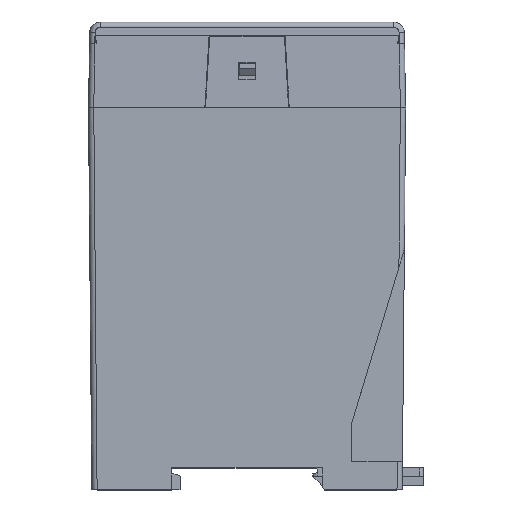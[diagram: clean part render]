
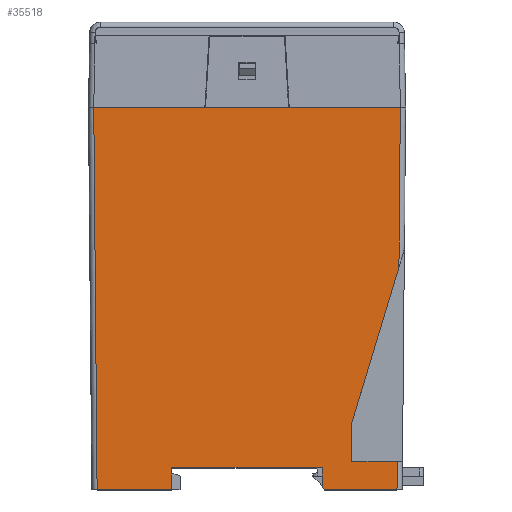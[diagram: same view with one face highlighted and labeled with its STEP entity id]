
A CAD part, top view. The second image highlights one B-rep face of the part: STEP entity #35518.
In plain terms, the highlighted planar face has unit normal (0, -0.009, 1).
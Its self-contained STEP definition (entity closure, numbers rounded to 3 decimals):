
#271 = EDGE_CURVE ( 'NONE', #39923, #16876, #25720, .T. ) ;
#479 = ORIENTED_EDGE ( 'NONE', *, *, #28667, .T. ) ;
#1952 = VERTEX_POINT ( 'NONE', #21425 ) ;
#2275 = VECTOR ( 'NONE', #29764, 1000. ) ;
#2846 = VECTOR ( 'NONE', #27057, 1000. ) ;
#3086 = LINE ( 'NONE', #39205, #13003 ) ;
#3342 = CARTESIAN_POINT ( 'NONE',  ( 49., 0., 25. ) ) ;
#3517 = CARTESIAN_POINT ( 'NONE',  ( -17.178, -55.738, 24.514 ) ) ;
#3635 = CARTESIAN_POINT ( 'NONE',  ( 24.861, -84., 24.267 ) ) ;
#4138 = CARTESIAN_POINT ( 'NONE',  ( 35.559, -90.7, 24.208 ) ) ;
#4170 = DIRECTION ( 'NONE',  ( 0.713, -0.701, -0.006 ) ) ;
#4301 = CARTESIAN_POINT ( 'NONE',  ( 36.35, 0.011, 25. ) ) ;
#4428 = LINE ( 'NONE', #37737, #30279 ) ;
#4620 = ORIENTED_EDGE ( 'NONE', *, *, #31604, .T. ) ;
#4980 = DIRECTION ( 'NONE',  ( 0., -1., -0.009 ) ) ;
#5839 = VERTEX_POINT ( 'NONE', #30574 ) ;
#6032 = VERTEX_POINT ( 'NONE', #23410 ) ;
#6281 = VECTOR ( 'NONE', #27338, 1000. ) ;
#7072 = VERTEX_POINT ( 'NONE', #29216 ) ;
#7608 = LINE ( 'NONE', #3517, #27795 ) ;
#7632 = CARTESIAN_POINT ( 'NONE',  ( -15., 0., 25. ) ) ;
#7657 = DIRECTION ( 'NONE',  ( 0.009, 1., 0.009 ) ) ;
#8182 = VERTEX_POINT ( 'NONE', #37005 ) ;
#8206 = PLANE ( 'NONE',  #32553 ) ;
#8334 = VECTOR ( 'NONE', #22715, 1000. ) ;
#9813 = VECTOR ( 'NONE', #35968, 1000. ) ;
#10176 = CARTESIAN_POINT ( 'NONE',  ( 17.85, -85.5, 24.254 ) ) ;
#10361 = ORIENTED_EDGE ( 'NONE', *, *, #16277, .F. ) ;
#11024 = VERTEX_POINT ( 'NONE', #3635 ) ;
#11501 = CARTESIAN_POINT ( 'NONE',  ( -9.85, 0., 25. ) ) ;
#11851 = CARTESIAN_POINT ( 'NONE',  ( 37.6, 0., 25. ) ) ;
#12038 = ORIENTED_EDGE ( 'NONE', *, *, #13414, .F. ) ;
#12741 = CARTESIAN_POINT ( 'NONE',  ( 37.6, -84., 24.267 ) ) ;
#12952 = LINE ( 'NONE', #23078, #2275 ) ;
#13003 = VECTOR ( 'NONE', #29558, 1000. ) ;
#13198 = DIRECTION ( 'NONE',  ( -1., 0., 0. ) ) ;
#13414 = EDGE_CURVE ( 'NONE', #6032, #7072, #32192, .T. ) ;
#13852 = CARTESIAN_POINT ( 'NONE',  ( -17.85, -85.5, 24.254 ) ) ;
#14097 = LINE ( 'NONE', #33695, #26430 ) ;
#14576 = CARTESIAN_POINT ( 'NONE',  ( 36.854, -90.7, 24.208 ) ) ;
#14656 = ORIENTED_EDGE ( 'NONE', *, *, #36639, .T. ) ;
#15005 = CARTESIAN_POINT ( 'NONE',  ( 18.4, -90.7, 24.208 ) ) ;
#15801 = EDGE_CURVE ( 'NONE', #27675, #6032, #18139, .T. ) ;
#16184 = CARTESIAN_POINT ( 'NONE',  ( 17.891, -90.2, 24.213 ) ) ;
#16277 = EDGE_CURVE ( 'NONE', #28578, #27675, #33827, .T. ) ;
#16470 = LINE ( 'NONE', #27262, #2846 ) ;
#16876 = VERTEX_POINT ( 'NONE', #15005 ) ;
#17453 = ORIENTED_EDGE ( 'NONE', *, *, #15801, .F. ) ;
#18135 = DIRECTION ( 'NONE',  ( -0.009, 1., 0.009 ) ) ;
#18139 = LINE ( 'NONE', #7632, #33317 ) ;
#18206 = VECTOR ( 'NONE', #27170, 1000. ) ;
#18294 = ORIENTED_EDGE ( 'NONE', *, *, #38089, .F. ) ;
#18511 = FACE_OUTER_BOUND ( 'NONE', #26412, .T. ) ;
#19034 = LINE ( 'NONE', #42447, #39396 ) ;
#19840 = EDGE_CURVE ( 'NONE', #25005, #30820, #23533, .T. ) ;
#21230 = CARTESIAN_POINT ( 'NONE',  ( -17.895, -90.7, 24.208 ) ) ;
#21329 = DIRECTION ( 'NONE',  ( 0., -0.009, 1. ) ) ;
#21425 = CARTESIAN_POINT ( 'NONE',  ( 24.861, -74.7, 24.348 ) ) ;
#21431 = ORIENTED_EDGE ( 'NONE', *, *, #24566, .T. ) ;
#22085 = EDGE_CURVE ( 'NONE', #27704, #16876, #7608, .T. ) ;
#22542 = ORIENTED_EDGE ( 'NONE', *, *, #19840, .T. ) ;
#22715 = DIRECTION ( 'NONE',  ( 1., 0., 0. ) ) ;
#23078 = CARTESIAN_POINT ( 'NONE',  ( -36.344, -0.645, 24.994 ) ) ;
#23410 = CARTESIAN_POINT ( 'NONE',  ( 9.85, 0., 25. ) ) ;
#23533 = LINE ( 'NONE', #39208, #24493 ) ;
#24404 = CARTESIAN_POINT ( 'NONE',  ( 17.851, -85.627, 24.253 ) ) ;
#24493 = VECTOR ( 'NONE', #36845, 1000. ) ;
#24566 = EDGE_CURVE ( 'NONE', #1952, #34547, #16470, .T. ) ;
#25005 = VERTEX_POINT ( 'NONE', #13852 ) ;
#25217 = EDGE_CURVE ( 'NONE', #39923, #8182, #26697, .T. ) ;
#25323 = ORIENTED_EDGE ( 'NONE', *, *, #271, .F. ) ;
#25720 = LINE ( 'NONE', #14576, #36333 ) ;
#25991 = ORIENTED_EDGE ( 'NONE', *, *, #36536, .T. ) ;
#26412 = EDGE_LOOP ( 'NONE', ( #29920, #39005, #25323, #27495, #25991, #39117, #21431, #4620, #12038, #17453, #10361, #14656, #18294, #479, #22542 ) ) ;
#26430 = VECTOR ( 'NONE', #7657, 1000. ) ;
#26697 = LINE ( 'NONE', #4301, #6281 ) ;
#27057 = DIRECTION ( 'NONE',  ( 0.29, 0.957, 0.008 ) ) ;
#27158 = VERTEX_POINT ( 'NONE', #21230 ) ;
#27170 = DIRECTION ( 'NONE',  ( 1., 0., 0. ) ) ;
#27262 = CARTESIAN_POINT ( 'NONE',  ( 46.697, -2.761, 24.976 ) ) ;
#27338 = DIRECTION ( 'NONE',  ( 0.009, 1., 0.009 ) ) ;
#27495 = ORIENTED_EDGE ( 'NONE', *, *, #25217, .T. ) ;
#27675 = VERTEX_POINT ( 'NONE', #11501 ) ;
#27704 = VERTEX_POINT ( 'NONE', #16184 ) ;
#27795 = VECTOR ( 'NONE', #4170, 1000. ) ;
#28578 = VERTEX_POINT ( 'NONE', #32414 ) ;
#28667 = EDGE_CURVE ( 'NONE', #27158, #25005, #14097, .T. ) ;
#29216 = CARTESIAN_POINT ( 'NONE',  ( 36.35, 0., 25. ) ) ;
#29558 = DIRECTION ( 'NONE',  ( 0., 1., 0.009 ) ) ;
#29764 = DIRECTION ( 'NONE',  ( 0.009, -1., -0.009 ) ) ;
#29920 = ORIENTED_EDGE ( 'NONE', *, *, #33808, .F. ) ;
#30279 = VECTOR ( 'NONE', #34523, 1000. ) ;
#30574 = CARTESIAN_POINT ( 'NONE',  ( -35.559, -90.7, 24.208 ) ) ;
#30730 = EDGE_CURVE ( 'NONE', #11024, #1952, #3086, .T. ) ;
#30820 = VERTEX_POINT ( 'NONE', #10176 ) ;
#31067 = LINE ( 'NONE', #24404, #31762 ) ;
#31604 = EDGE_CURVE ( 'NONE', #34547, #7072, #4428, .T. ) ;
#31762 = VECTOR ( 'NONE', #18135, 1000. ) ;
#32192 = LINE ( 'NONE', #3342, #8334 ) ;
#32414 = CARTESIAN_POINT ( 'NONE',  ( -36.35, 0., 25. ) ) ;
#32553 = AXIS2_PLACEMENT_3D ( 'NONE', #11851, #21329, #4980 ) ;
#32764 = LINE ( 'NONE', #12741, #9813 ) ;
#33317 = VECTOR ( 'NONE', #40303, 1000. ) ;
#33695 = CARTESIAN_POINT ( 'NONE',  ( -17.85, -85.5, 24.254 ) ) ;
#33808 = EDGE_CURVE ( 'NONE', #27704, #30820, #31067, .T. ) ;
#33827 = LINE ( 'NONE', #40463, #18206 ) ;
#34127 = CARTESIAN_POINT ( 'NONE',  ( 36.019, -37.94, 24.669 ) ) ;
#34166 = DIRECTION ( 'NONE',  ( -1., 0., 0. ) ) ;
#34523 = DIRECTION ( 'NONE',  ( 0.009, 1., 0.009 ) ) ;
#34547 = VERTEX_POINT ( 'NONE', #34127 ) ;
#35518 = ADVANCED_FACE ( 'NONE', ( #18511 ), #8206, .T. ) ;
#35968 = DIRECTION ( 'NONE',  ( -1., 0., 0. ) ) ;
#36333 = VECTOR ( 'NONE', #34166, 1000. ) ;
#36536 = EDGE_CURVE ( 'NONE', #8182, #11024, #32764, .T. ) ;
#36639 = EDGE_CURVE ( 'NONE', #28578, #5839, #12952, .T. ) ;
#36845 = DIRECTION ( 'NONE',  ( 1., 0., 0. ) ) ;
#37005 = CARTESIAN_POINT ( 'NONE',  ( 35.617, -84., 24.267 ) ) ;
#37737 = CARTESIAN_POINT ( 'NONE',  ( 36.35, 0.011, 25. ) ) ;
#38089 = EDGE_CURVE ( 'NONE', #27158, #5839, #19034, .T. ) ;
#39005 = ORIENTED_EDGE ( 'NONE', *, *, #22085, .T. ) ;
#39117 = ORIENTED_EDGE ( 'NONE', *, *, #30730, .T. ) ;
#39205 = CARTESIAN_POINT ( 'NONE',  ( 24.861, 0., 25. ) ) ;
#39208 = CARTESIAN_POINT ( 'NONE',  ( -37.6, -85.5, 24.254 ) ) ;
#39396 = VECTOR ( 'NONE', #13198, 1000. ) ;
#39923 = VERTEX_POINT ( 'NONE', #4138 ) ;
#40303 = DIRECTION ( 'NONE',  ( 1., 0., 0. ) ) ;
#40463 = CARTESIAN_POINT ( 'NONE',  ( -49., 0., 25. ) ) ;
#42447 = CARTESIAN_POINT ( 'NONE',  ( -17.85, -90.7, 24.208 ) ) ;
